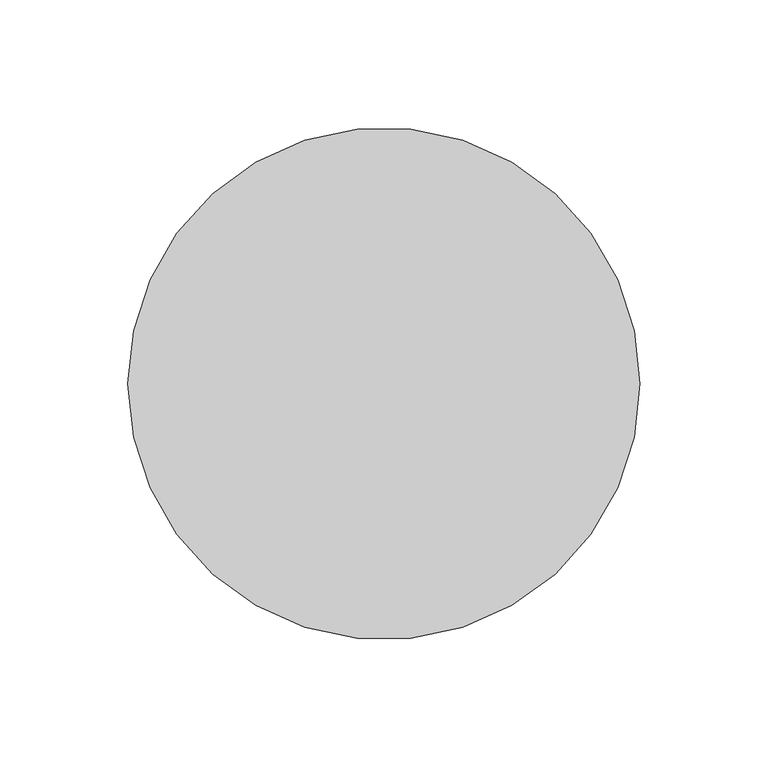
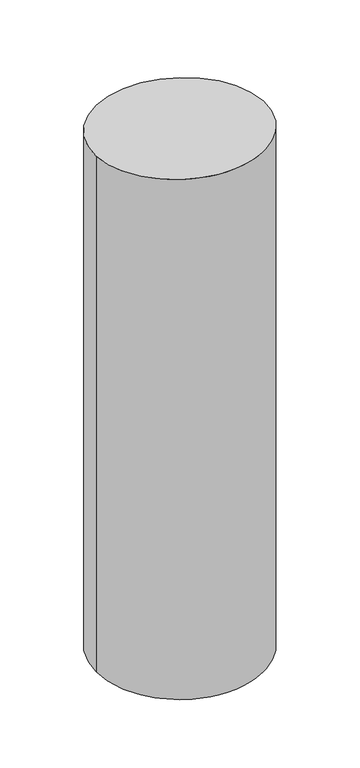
"""IFC4 building model written with IfcOpenShell, lengths in millimetres: member geometry, 矩形竖梃 : 圆瓦."""

from ifc_helpers import new_model, si_unit, frame, origin, origin_with_axes, place, context, project, spatial, circle_curve, ellipse_curve, source, transform, mapped, element, save
from ifc_brep_helpers import plane_surface, cylinder_surface, advanced_brep


def member_26c271c4(model_context):
    return source(origin(), model_context, "Body", "AdvancedBrep", [
        advanced_brep(
        [(100.0, 0.0, -653.4261896), (-100.0, 0.0, -653.4261896), (-100.0, 0.0, 0.0), (100.0, 0.0, 0.0)],
        [
            (0, 1, circle_curve(frame((0.0, 0.0, -653.4261896), z_axis=(0.0, 0.0, -1.0), x_axis=(1.0, 0.0, 0.0)), 100.0)),
            (1, 0, circle_curve(frame((0.0, 0.0, -653.4261896), z_axis=(0.0, 0.0, -1.0), x_axis=(1.0, 0.0, 0.0)), 100.0)),
            (2, 3, ellipse_curve(frame((0.0, 0.0, 0.0), z_axis=(0.0, -0.06182029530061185, -0.9980872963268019), x_axis=(0.0, -0.9980872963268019, 0.06182029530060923)), 100.1916369, 100.0)),
            (3, 0),
            (1, 2),
            (3, 2, ellipse_curve(frame((0.0, 0.0, 0.0), z_axis=(0.0, -0.06182029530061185, -0.9980872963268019), x_axis=(0.0, -0.9980872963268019, 0.06182029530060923)), 100.1916369, 100.0)),
        ],
        [
            plane_surface(frame((0.0, -100.0, -653.4261896), z_axis=(0.0, 0.0, -1.0), x_axis=(-1.0, 0.0, 0.0))),
            cylinder_surface(origin_with_axes(), 100.0),
            plane_surface(frame((-304.8, 0.0, 0.0), z_axis=(0.0, 0.06182029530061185, 0.9980872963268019), x_axis=(0.0, 0.9980872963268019, -0.06182029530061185))),
        ],
        [
            (0, [[1, 2]]),
            (1, [[3, 4, -2, 5]]),
            (1, [[6, -5, -1, -4]]),
            (2, [[-3, -6]]),
        ],
    ),
    ])


if __name__ == "__main__":
    model = new_model("IFC4")
    model_context = context("Model", 3, world=origin())
    ifc_project = project(units=[si_unit("LENGTHUNIT", "METRE", prefix="MILLI")], contexts=[model_context])
    site = spatial("IfcSite", under=ifc_project)
    building = spatial("IfcBuilding", under=site)
    placement = place(None, origin())
    member_shape = member_26c271c4(model_context)
    element("IfcMember", 1, ObjectType="矩形竖梃 : 圆瓦", at=placement, inside=building, context=model_context, shape_type="MappedRepresentation", body=[
        mapped(member_shape, transform((0.0, 0.0, 0.0), x_axis=(1.0, 0.0, 0.0), y_axis=(0.0, 1.0, 0.0), z_axis=(0.0, 0.0, 1.0))),
    ])
    save(model, "model.ifc")
